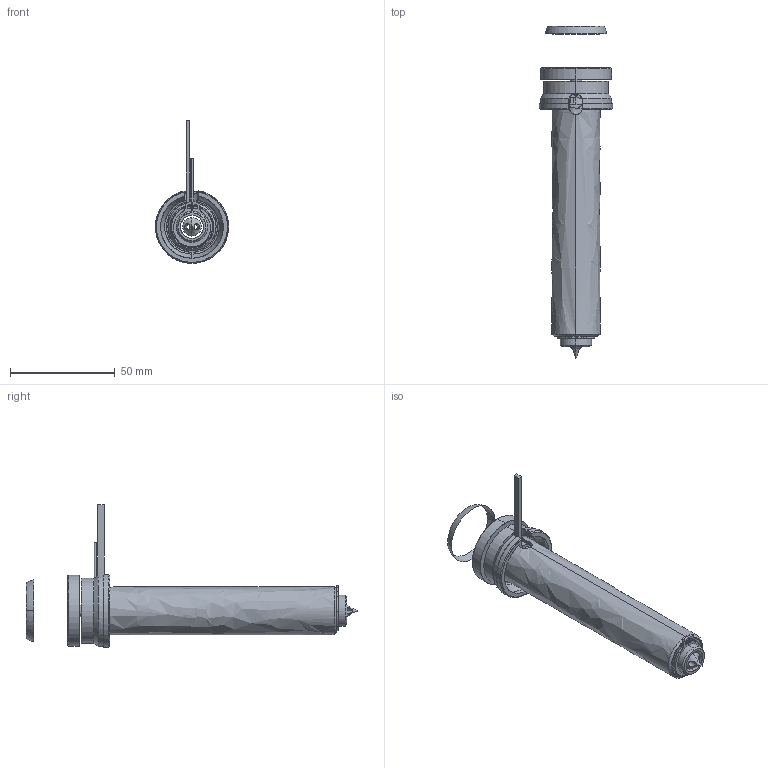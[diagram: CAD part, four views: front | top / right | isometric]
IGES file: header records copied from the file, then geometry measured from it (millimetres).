
Start section: SolidWorks IGES file using analytic representation for surfaces
Global section: file name: C:\Users\luca.EMPAD\Desktop\TEM\UGDL2603-M-A [Øf=0.3 ØC=5.5].IGS; native system: SolidWorks 2012; preprocessor: SolidWorks 2012; author: luca; date: 120330.144944; units: millimetre
Bounding box: 35 x 158.84 x 68.3 mm (x, y, z)
Surface area: 33399 mm2 (no closed solid volume)
Topology: 0 solids, 0 shells, 135 faces, 2194 edges, 2190 vertices
Faces by surface type: revolution 76, bspline 59
